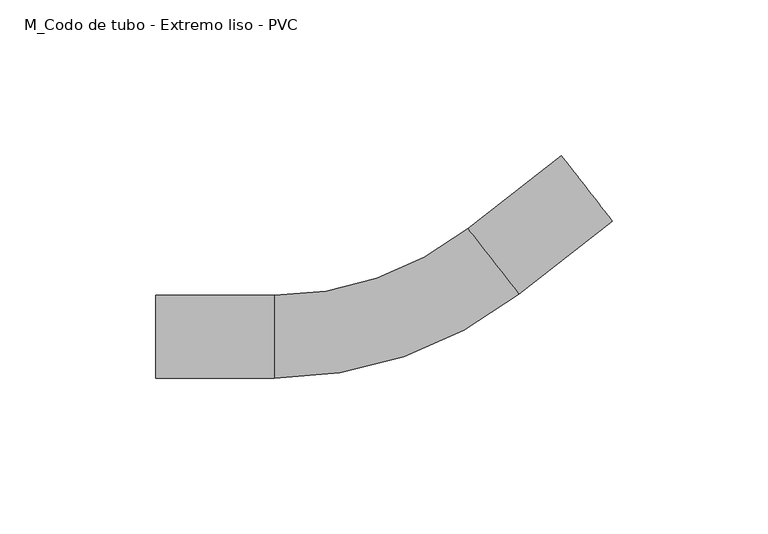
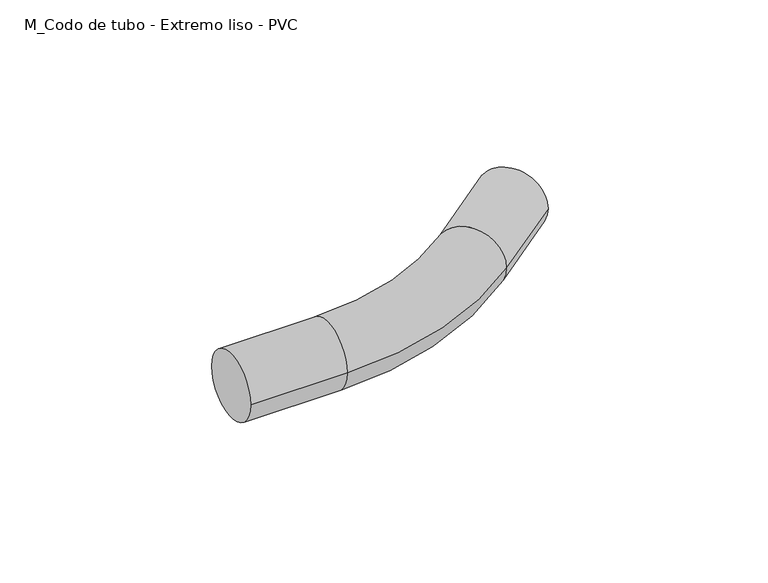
"""IFC4 building model written with IfcOpenShell, lengths in millimetres: cable carrier fitting geometry, M_Codo de tubo - Extremo liso - PVC : CODO ILUMINACION."""

from ifc_helpers import new_model, si_unit, point, frame, origin, place, context, project, spatial, circle_curve, ellipse_curve, trimmed, source, transform, mapped, element, save
from ifc_brep_helpers import plane_surface, cylinder_surface, revolved_surface, advanced_brep


def m_codo_de_tubo_extremo_liso_pvc_a7355fb1(model_context):
    return source(origin(), model_context, "Body", "AdvancedBrep", [
        advanced_brep(
        [(-77.4566462, -13.335, 0.0), (-77.4566462, 13.335, 0.0), (-39.3566462, -13.335, 0.0), (-39.3566462, 13.335, 0.0), (22.8036147, 34.7384943, 0.0), (39.2233062, 13.7222475, 0.0), (69.2465159, 37.1789497, 0.0), (52.8268244, 58.1951965, 0.0)],
        [
            (0, 1, circle_curve(frame((-77.4566462, 0.0, 0.0), z_axis=(-1.0, 0.0, 0.0), x_axis=(0.0, 1.0, 0.0)), 13.335)),
            (1, 0, circle_curve(frame((-77.4566462, 0.0, 0.0), z_axis=(-1.0, 0.0, 0.0), x_axis=(0.0, 1.0, 0.0)), 13.335)),
            (0, 2),
            (2, 3, circle_curve(frame((-39.3566462, 0.0, 0.0), z_axis=(-1.0, 0.0, 0.0), x_axis=(0.0, 1.0, 0.0)), 13.335)),
            (3, 1),
            (3, 2, circle_curve(frame((-39.3566462, 0.0, 0.0), z_axis=(-1.0, 0.0, 0.0), x_axis=(0.0, 1.0, 0.0)), 13.335)),
            (4, 3, circle_curve(frame((-39.3566462, 114.3, 0.0), z_axis=(0.0, 0.0, -1.0), x_axis=(0.0, -1.0, 0.0)), 100.965)),
            (2, 5, circle_curve(frame((-39.3566462, 114.3, 0.0), z_axis=(0.0, 0.0, 1.0), x_axis=(0.0, -1.0, 0.0)), 127.635)),
            (5, 4, circle_curve(frame((31.0134604, 24.2303709, 0.0), z_axis=(-0.788010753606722, -0.6156614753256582, 0.0), x_axis=(-0.6156614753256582, 0.788010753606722, 0.0)), 13.335)),
            (4, 5, circle_curve(frame((31.0134604, 24.2303709, 0.0), z_axis=(-0.788010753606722, -0.6156614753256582, 0.0), x_axis=(-0.6156614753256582, 0.788010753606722, 0.0)), 13.335)),
            (6, 7, circle_curve(frame((61.0366701, 47.6870731, 0.0), z_axis=(0.788010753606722, 0.6156614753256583, 0.0), x_axis=(-0.6156614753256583, 0.788010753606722, 0.0)), 13.335)),
            (7, 6, circle_curve(frame((61.0366701, 47.6870731, 0.0), z_axis=(0.788010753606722, 0.6156614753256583, 0.0), x_axis=(-0.6156614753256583, 0.788010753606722, 0.0)), 13.335)),
            (5, 6),
            (7, 4),
        ],
        [
            plane_surface(frame((-77.4566462, 0.0, 0.0), z_axis=(-1.0, 0.0, 0.0), x_axis=(0.0, 0.0, 1.0))),
            cylinder_surface(frame((-77.4566462, 0.0, 0.0), z_axis=(-1.0, 0.0, 0.0), x_axis=(0.0, 1.0, 0.0)), 13.335),
            revolved_surface(trimmed(ellipse_curve(frame((-39.3566462, 0.0, 0.0), z_axis=(-1.0, 0.0, 0.0), x_axis=(0.0, 1.0, 0.0)), 13.335, 13.335), [point((-39.3566462, -13.335, 0.0))], [point((-39.3566462, 13.335, 0.0))], True, "CARTESIAN"), (-39.3566462, 114.3, 0.0), (0.0, 0.0, 1.0)),
            revolved_surface(trimmed(ellipse_curve(frame((-39.3566462, 0.0, 0.0), z_axis=(-1.0, 0.0, 0.0), x_axis=(0.0, 1.0, 0.0)), 13.335, 13.335), [point((-39.3566462, 13.335, 0.0))], [point((-39.3566462, -13.335, 0.0))], True, "CARTESIAN"), (-39.3566462, 114.3, 0.0), (0.0, 0.0, 1.0)),
            plane_surface(frame((61.0366701, 47.6870731, 0.0), z_axis=(0.788010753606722, 0.6156614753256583, 0.0), x_axis=(0.0, 0.0, 1.0))),
            cylinder_surface(frame((31.0134604, 24.2303709, 0.0), z_axis=(-0.788010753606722, -0.6156614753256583, 0.0), x_axis=(-0.6156614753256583, 0.788010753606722, 0.0)), 13.335),
        ],
        [
            (0, [[1, 2]]),
            (1, [[-1, 3, 4, 5]]),
            (1, [[-2, -5, 6, -3]]),
            (2, [[7, -4, 8, 9]]),
            (3, [[-8, -6, -7, 10]]),
            (4, [[11, 12]]),
            (5, [[-9, 13, -12, 14]]),
            (5, [[-10, -14, -11, -13]]),
        ],
    ),
    ])


if __name__ == "__main__":
    model = new_model("IFC4")
    model_context = context("Model", 3, world=origin())
    ifc_project = project(units=[si_unit("LENGTHUNIT", "METRE", prefix="MILLI")], contexts=[model_context])
    site = spatial("IfcSite", under=ifc_project)
    building = spatial("IfcBuilding", under=site)
    placement = place(None, origin())
    m_codo_de_tubo_extremo_liso_pvc_shape = m_codo_de_tubo_extremo_liso_pvc_a7355fb1(model_context)
    element("IfcCableCarrierFitting", 1, ObjectType="M_Codo de tubo - Extremo liso - PVC : CODO ILUMINACION", at=placement, inside=building, context=model_context, shape_type="MappedRepresentation", body=[
        mapped(m_codo_de_tubo_extremo_liso_pvc_shape, transform((0.0, 0.0, 0.0), x_axis=(1.0, 0.0, 0.0), y_axis=(0.0, 1.0, 0.0), z_axis=(0.0, 0.0, 1.0))),
    ])
    save(model, "model.ifc")
